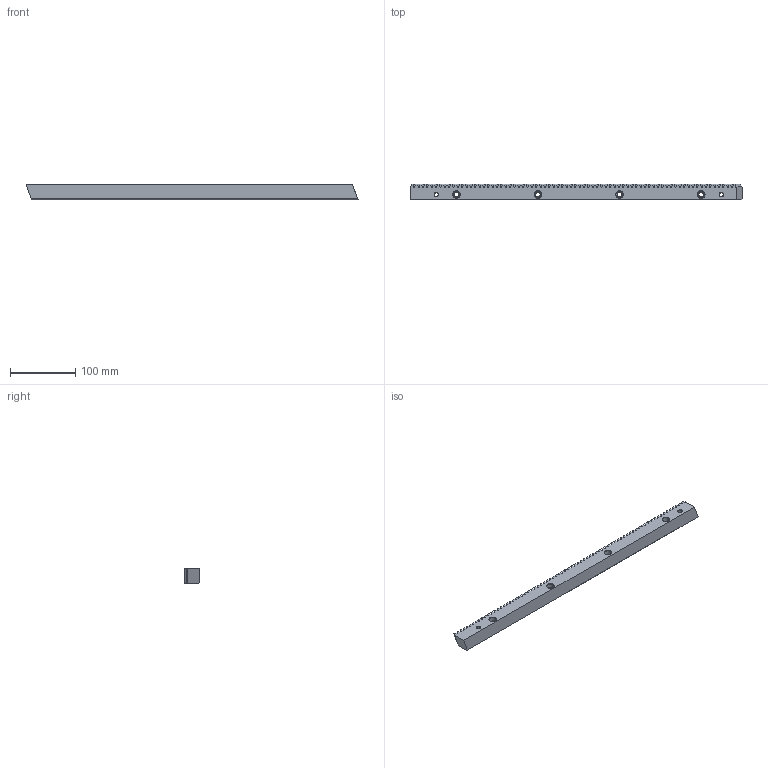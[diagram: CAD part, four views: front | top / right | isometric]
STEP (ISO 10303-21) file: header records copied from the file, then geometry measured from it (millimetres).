
FILE_DESCRIPTION (( 'STEP AP214' ), '1' );
FILE_NAME ('1HR35R020050H.STEP', '2021-12-06T09:47:47', ( '' ), ( '' ), 'SwSTEP 2.0', 'SolidWorks 2021', '' );
FILE_SCHEMA (( 'AUTOMOTIVE_DESIGN' ));
Length unit declared in the file: millimetre
Products named in the file (1): 1HR35R020050H
Bounding box: 508.51 x 24 x 24 mm (x, y, z)
Volume: 254574.9 mm3; surface area: 60288.3 mm2
Topology: 1 solids, 1 shells, 801 faces, 2365 edges, 1570 vertices
Faces by surface type: plane 461, cylinder 320, cone 20
Entity records: 26237 total; most frequent: CARTESIAN_POINT 6537, ORIENTED_EDGE 4730, DIRECTION 3429, EDGE_CURVE 2365, LINE 1705, VECTOR 1705, VERTEX_POINT 1570, AXIS2_PLACEMENT_3D 862
